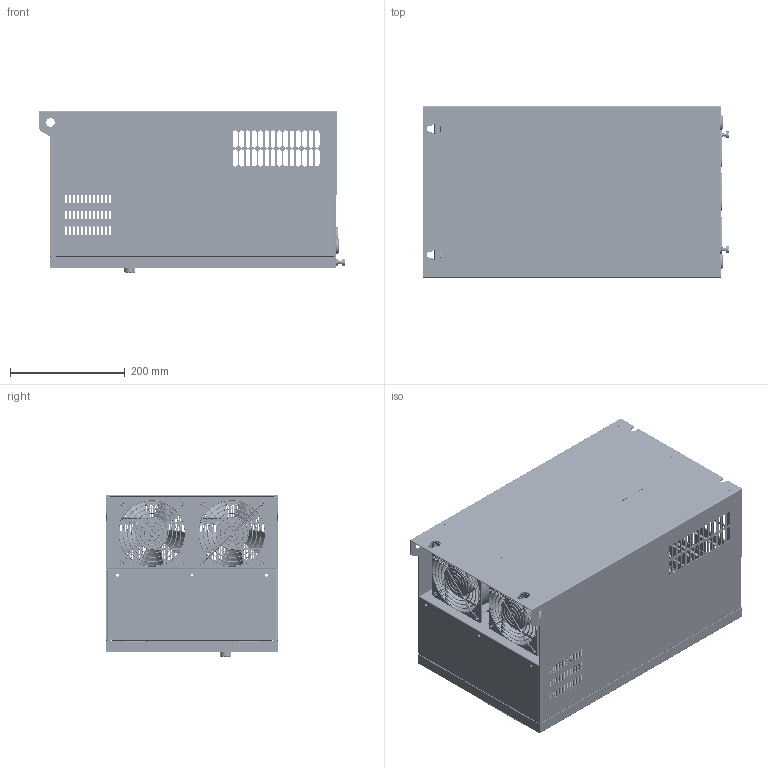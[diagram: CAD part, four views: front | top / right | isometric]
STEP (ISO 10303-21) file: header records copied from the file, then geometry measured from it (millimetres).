
FILE_DESCRIPTION((''),'2;1');
FILE_NAME('45-55KW_3D_ASM_287_ASM_1_ASM_1_ASM','2022-07-18T',('Administrator'),(''),'PRO/ENGINEER BY PARAMETRIC TECHNOLOGY CORPORATION, 2010280','PRO/ENGINEER BY PARAMETRIC TECHNOLOGY CORPORATION, 2010280','');
FILE_SCHEMA(('AUTOMOTIVE_DESIGN_CC2 { 1 2 10303 214 -1 1 5 2 }'));
Products named in the file (91): MANIFOLD_SOLID_BREP_30210_1_AF0; MANIFOLD_SOLID_BREP_30467_1_1; MANIFOLD_SOLID_BREP_30724_1_1; 5G3NP3F001_269_ASM_1_AF0_ASM_1_ASM; MANIFOLD_SOLID_BREP_36012_1_1; MANIFOLD_SOLID_BREP_36269_1_1; MANIFOLD_SOLID_BREP_36526_1_1; MANIFOLD_SOLID_BREP_36783_1_1; _5G3NP3F002_142_1_1; 5G3NP3F002_142_ASM_1_ASM_1_ASM; MANIFOLD_SOLID_BREP_52411_1_AF0; MANIFOLD_SOLID_BREP_52668_1_1; MANIFOLD_SOLID_BREP_52925_1_1; MANIFOLD_SOLID_BREP_53182_1_1; _5G3NP3F005_206_1_1; 5G3NP3F005_206_ASM_1_AF0_ASM_1_ASM; MANIFOLD_SOLID_BREP_56921_1_1; MANIFOLD_SOLID_BREP_57178_1_1; MANIFOLD_SOLID_BREP_57435_1_1; _5G3NP3F017_8_1_1; 5G3NP3F017_8_ASM_1_ASM_1_ASM; 5G3NP2F001_ASM_215_ASM_1_AF0_AS_ASM; MANIFOLD_SOLID_BREP_61731_1_1; MANIFOLD_SOLID_BREP_61933_1_1; MANIFOLD_SOLID_BREP_62135_1_1; MANIFOLD_SOLID_BREP_62337_1_1; MANIFOLD_SOLID_BREP_62539_1_1; MANIFOLD_SOLID_BREP_62741_1_1; MANIFOLD_SOLID_BREP_62943_1_1; _5G3NP3F007_164_1_1; 5G3NP3F007_164_ASM_1_ASM_1_ASM; MANIFOLD_SOLID_BREP_72053_1_AF0; MANIFOLD_SOLID_BREP_73286_1_1; MANIFOLD_SOLID_BREP_73543_1_1; MANIFOLD_SOLID_BREP_73800_1_1; _5G3NP3F009_166_1_1; 5G3NP3F009_166_ASM_1_AF0_ASM_1_ASM; MANIFOLD_SOLID_BREP_79371_1_AF0; _5G3NP3F012_139_1_1; 5G3NP3F012_139_ASM_1_AF0_ASM_1_ASM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
Assembly tree (96 placements, depth 5):
  45-55KW_3D_ASM_287_ASM_1_ASM_1_ASM
    5G3NP1F001_ASM_193_ASM_1_AF0_AS_ASM
      5G3NP2F001_ASM_215_ASM_1_AF0_AS_ASM
        5G3NP3F001_269_ASM_1_AF0_ASM_1_ASM
          MANIFOLD_SOLID_BREP_30210_1_AF0
          MANIFOLD_SOLID_BREP_30467_1_1
          MANIFOLD_SOLID_BREP_30724_1_1
        5G3NP3F002_142_ASM_1_ASM_1_ASM
          MANIFOLD_SOLID_BREP_36012_1_1
          MANIFOLD_SOLID_BREP_36269_1_1
          MANIFOLD_SOLID_BREP_36526_1_1
          MANIFOLD_SOLID_BREP_36783_1_1
          _5G3NP3F002_142_1_1
        5G3NP3F005_206_ASM_1_AF0_ASM_1_ASM
          MANIFOLD_SOLID_BREP_52411_1_AF0
          MANIFOLD_SOLID_BREP_52668_1_1
          MANIFOLD_SOLID_BREP_52925_1_1
          MANIFOLD_SOLID_BREP_53182_1_1
          _5G3NP3F005_206_1_1
        5G3NP3F017_8_ASM_1_ASM_1_ASM
          MANIFOLD_SOLID_BREP_56921_1_1
          MANIFOLD_SOLID_BREP_57178_1_1
          MANIFOLD_SOLID_BREP_57435_1_1
          _5G3NP3F017_8_1_1
      5G3NP3F007_164_ASM_1_ASM_1_ASM
        MANIFOLD_SOLID_BREP_61731_1_1
        MANIFOLD_SOLID_BREP_61933_1_1
        MANIFOLD_SOLID_BREP_62135_1_1
        MANIFOLD_SOLID_BREP_62337_1_1
        MANIFOLD_SOLID_BREP_62539_1_1
        MANIFOLD_SOLID_BREP_62741_1_1
        MANIFOLD_SOLID_BREP_62943_1_1
        _5G3NP3F007_164_1_1
      5G3NP3F009_166_ASM_1_AF0_ASM_1_ASM
        MANIFOLD_SOLID_BREP_72053_1_AF0
        MANIFOLD_SOLID_BREP_73286_1_1
        MANIFOLD_SOLID_BREP_73543_1_1
        MANIFOLD_SOLID_BREP_73800_1_1
        _5G3NP3F009_166_1_1
      5G3NP3F012_139_ASM_1_AF0_ASM_1_ASM
        MANIFOLD_SOLID_BREP_79371_1_AF0
        _5G3NP3F012_139_1_1
      YDS_A1_M4-16_35_1_1  x2
    5G3NP3R001_157_1_AF0_1
    FAN_1-10-4045_BP123848M_113_ASM_ASM  x2
      MANIFOLD_SOLID_BREP_280157_1_1
      MANIFOLD_SOLID_BREP_285914_1_1
      MANIFOLD_SOLID_BREP_286016_1_1
      MANIFOLD_SOLID_BREP_286118_1_1
      _FAN_1-10-4045_BP123848M_113_1_
    NETF_1-17-1004_D120_113_ASM_1_A_ASM  x2
      MANIFOLD_SOLID_BREP_286553_1_1
      MANIFOLD_SOLID_BREP_286659_1_1
      MANIFOLD_SOLID_BREP_287465_1_1
      MANIFOLD_SOLID_BREP_288271_1_1
      MANIFOLD_SOLID_BREP_288377_1_1
      MANIFOLD_SOLID_BREP_288483_1_1
      MANIFOLD_SOLID_BREP_288589_1_1
      MANIFOLD_SOLID_BREP_288695_1_1
      MANIFOLD_SOLID_BREP_288801_1_1
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Bounding box: 535.2 x 300 x 283 mm (x, y, z)
Volume: 4208859.7 mm3; surface area: 4950750.3 mm2
Topology: 80 solids, 139 shells, 5182 faces, 27888 edges, 26229 vertices
Faces by surface type: plane 2986, cylinder 1547, torus 227, extrusion 184, bspline 112, cone 102, sphere 24
Entity records: 307093 total; most frequent: CARTESIAN_POINT 61979, DIRECTION 36263, ORIENTED_EDGE 27196, VECTOR 19385, LINE 19291, PRESENTATION_STYLE_ASSIGNMENT 16598, STYLED_ITEM 16558, EDGE_CURVE 14510
